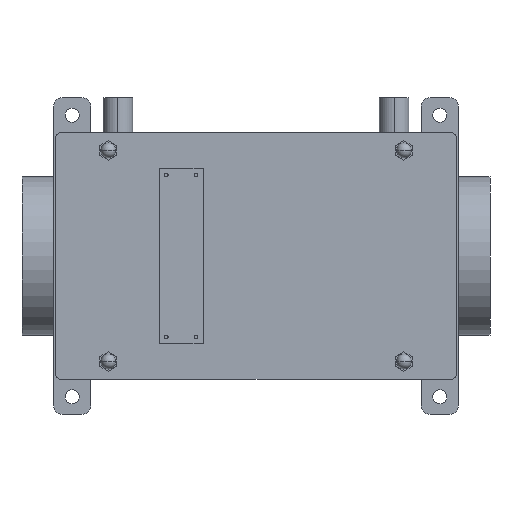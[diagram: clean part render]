
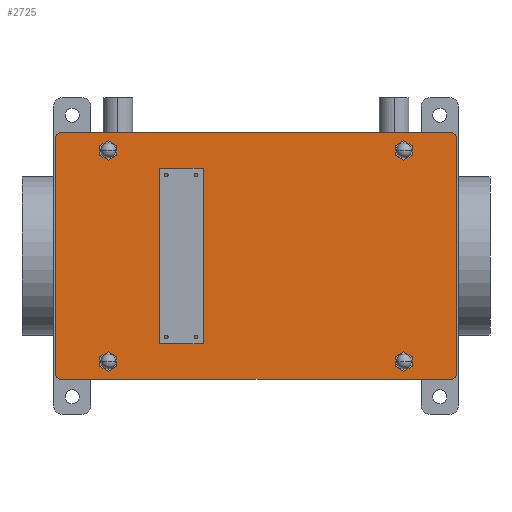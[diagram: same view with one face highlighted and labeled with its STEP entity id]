
A CAD part, left-side view. The second image highlights one B-rep face of the part: STEP entity #2725.
In plain terms, the highlighted planar face has unit normal (-1, 0, 0) as drawn and (0, -1, 0) by its records, which use the part's own axes.
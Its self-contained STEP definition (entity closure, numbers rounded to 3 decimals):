
#53 = CARTESIAN_POINT ( 'NONE',  ( 120., -3., 168. ) ) ;
#66 = CIRCLE ( 'NONE', #3059, 8. ) ;
#91 = VERTEX_POINT ( 'NONE', #5405 ) ;
#167 = AXIS2_PLACEMENT_3D ( 'NONE', #6049, #3472, #5362 ) ;
#198 = EDGE_LOOP ( 'NONE', ( #4922, #2471 ) ) ;
#282 = VERTEX_POINT ( 'NONE', #6151 ) ;
#332 = DIRECTION ( 'NONE',  ( 0., 0., 1. ) ) ;
#417 = AXIS2_PLACEMENT_3D ( 'NONE', #5882, #4494, #2011 ) ;
#546 = EDGE_CURVE ( 'NONE', #282, #91, #5200, .T. ) ;
#603 = EDGE_CURVE ( 'NONE', #282, #6971, #782, .T. ) ;
#649 = FACE_BOUND ( 'NONE', #198, .T. ) ;
#759 = AXIS2_PLACEMENT_3D ( 'NONE', #6581, #4764, #6611 ) ;
#779 = VERTEX_POINT ( 'NONE', #6519 ) ;
#782 = CIRCLE ( 'NONE', #167, 6. ) ;
#789 = VECTOR ( 'NONE', #3448, 1000. ) ;
#790 = AXIS2_PLACEMENT_3D ( 'NONE', #6330, #1992, #6386 ) ;
#814 = DIRECTION ( 'NONE',  ( 0., -1., 0. ) ) ;
#872 = CARTESIAN_POINT ( 'NONE',  ( 140., -3., 228. ) ) ;
#901 = ORIENTED_EDGE ( 'NONE', *, *, #546, .F. ) ;
#921 = DIRECTION ( 'NONE',  ( 0., 0., -1. ) ) ;
#1035 = CARTESIAN_POINT ( 'NONE',  ( 140., -3., 222. ) ) ;
#1052 = AXIS2_PLACEMENT_3D ( 'NONE', #7672, #3818, #4442 ) ;
#1103 = CARTESIAN_POINT ( 'NONE',  ( 120., -3., 176. ) ) ;
#1146 = FACE_BOUND ( 'NONE', #1563, .T. ) ;
#1246 = DIRECTION ( 'NONE',  ( 0., 0., 1. ) ) ;
#1268 = CARTESIAN_POINT ( 'NONE',  ( 120., -3., -176. ) ) ;
#1300 = CIRCLE ( 'NONE', #2087, 6. ) ;
#1390 = CARTESIAN_POINT ( 'NONE',  ( 134., -3., 228. ) ) ;
#1395 = ORIENTED_EDGE ( 'NONE', *, *, #603, .T. ) ;
#1399 = EDGE_CURVE ( 'NONE', #2378, #3362, #4899, .T. ) ;
#1446 = CIRCLE ( 'NONE', #7701, 8. ) ;
#1460 = PLANE ( 'NONE',  #1651 ) ;
#1544 = EDGE_CURVE ( 'NONE', #7169, #5431, #2232, .T. ) ;
#1563 = EDGE_LOOP ( 'NONE', ( #5016, #6210 ) ) ;
#1651 = AXIS2_PLACEMENT_3D ( 'NONE', #1969, #2552, #6257 ) ;
#1656 = CIRCLE ( 'NONE', #3218, 8. ) ;
#1736 = VERTEX_POINT ( 'NONE', #4715 ) ;
#1744 = VECTOR ( 'NONE', #2992, 1000. ) ;
#1969 = CARTESIAN_POINT ( 'NONE',  ( 0., -3., 0. ) ) ;
#1987 = EDGE_CURVE ( 'NONE', #3717, #779, #66, .T. ) ;
#1992 = DIRECTION ( 'NONE',  ( 0., 1., 0. ) ) ;
#1998 = VERTEX_POINT ( 'NONE', #1103 ) ;
#2003 = VERTEX_POINT ( 'NONE', #6142 ) ;
#2011 = DIRECTION ( 'NONE',  ( 0., 0., -1. ) ) ;
#2087 = AXIS2_PLACEMENT_3D ( 'NONE', #2099, #814, #921 ) ;
#2099 = CARTESIAN_POINT ( 'NONE',  ( -134., -3., 222. ) ) ;
#2112 = EDGE_CURVE ( 'NONE', #1998, #6609, #1656, .T. ) ;
#2232 = CIRCLE ( 'NONE', #417, 6. ) ;
#2378 = VERTEX_POINT ( 'NONE', #1268 ) ;
#2419 = CARTESIAN_POINT ( 'NONE',  ( 120., -3., 160. ) ) ;
#2436 = AXIS2_PLACEMENT_3D ( 'NONE', #5328, #4004, #7231 ) ;
#2471 = ORIENTED_EDGE ( 'NONE', *, *, #1399, .T. ) ;
#2552 = DIRECTION ( 'NONE',  ( 0., -1., 0. ) ) ;
#2611 = EDGE_CURVE ( 'NONE', #1736, #5431, #5026, .T. ) ;
#2660 = ORIENTED_EDGE ( 'NONE', *, *, #3215, .T. ) ;
#2695 = EDGE_CURVE ( 'NONE', #3362, #2378, #1446, .T. ) ;
#2725 = ADVANCED_FACE ( 'NONE', ( #649, #1146, #5983, #6252, #7439 ), #1460, .T. ) ;
#2774 = VECTOR ( 'NONE', #4139, 1000. ) ;
#2786 = ORIENTED_EDGE ( 'NONE', *, *, #3266, .F. ) ;
#2950 = EDGE_CURVE ( 'NONE', #7624, #2003, #5974, .T. ) ;
#2992 = DIRECTION ( 'NONE',  ( 0., 0., 1. ) ) ;
#3059 = AXIS2_PLACEMENT_3D ( 'NONE', #7872, #4732, #6033 ) ;
#3127 = CARTESIAN_POINT ( 'NONE',  ( 120., -3., -160. ) ) ;
#3215 = EDGE_CURVE ( 'NONE', #779, #3717, #5563, .T. ) ;
#3218 = AXIS2_PLACEMENT_3D ( 'NONE', #53, #7539, #1246 ) ;
#3266 = EDGE_CURVE ( 'NONE', #7987, #5724, #5067, .T. ) ;
#3289 = ORIENTED_EDGE ( 'NONE', *, *, #3856, .T. ) ;
#3362 = VERTEX_POINT ( 'NONE', #3127 ) ;
#3394 = CARTESIAN_POINT ( 'NONE',  ( -120., -3., 160. ) ) ;
#3406 = VECTOR ( 'NONE', #5268, 1000. ) ;
#3448 = DIRECTION ( 'NONE',  ( -1., 0., 0. ) ) ;
#3472 = DIRECTION ( 'NONE',  ( 0., -1., 0. ) ) ;
#3684 = EDGE_CURVE ( 'NONE', #7169, #6971, #7531, .T. ) ;
#3717 = VERTEX_POINT ( 'NONE', #3898 ) ;
#3818 = DIRECTION ( 'NONE',  ( 0., 1., 0. ) ) ;
#3856 = EDGE_CURVE ( 'NONE', #7987, #91, #7524, .T. ) ;
#3898 = CARTESIAN_POINT ( 'NONE',  ( -120., -3., -176. ) ) ;
#3923 = DIRECTION ( 'NONE',  ( 0., 0., 1. ) ) ;
#4004 = DIRECTION ( 'NONE',  ( 0., 1., 0. ) ) ;
#4102 = AXIS2_PLACEMENT_3D ( 'NONE', #5384, #4161, #5464 ) ;
#4139 = DIRECTION ( 'NONE',  ( 1., 0., 0. ) ) ;
#4141 = EDGE_LOOP ( 'NONE', ( #8061, #7778 ) ) ;
#4161 = DIRECTION ( 'NONE',  ( 0., 1., 0. ) ) ;
#4361 = EDGE_CURVE ( 'NONE', #6609, #1998, #6781, .T. ) ;
#4442 = DIRECTION ( 'NONE',  ( 0., 0., 1. ) ) ;
#4494 = DIRECTION ( 'NONE',  ( 0., -1., 0. ) ) ;
#4551 = CARTESIAN_POINT ( 'NONE',  ( 120., -3., -168. ) ) ;
#4595 = CARTESIAN_POINT ( 'NONE',  ( -140., -3., -222. ) ) ;
#4616 = ORIENTED_EDGE ( 'NONE', *, *, #1544, .T. ) ;
#4669 = EDGE_CURVE ( 'NONE', #2003, #7624, #7280, .T. ) ;
#4686 = AXIS2_PLACEMENT_3D ( 'NONE', #4551, #5124, #3923 ) ;
#4715 = CARTESIAN_POINT ( 'NONE',  ( -134., -3., 228. ) ) ;
#4732 = DIRECTION ( 'NONE',  ( 0., 1., 0. ) ) ;
#4737 = CARTESIAN_POINT ( 'NONE',  ( 140., -3., -222. ) ) ;
#4764 = DIRECTION ( 'NONE',  ( 0., -1., 0. ) ) ;
#4899 = CIRCLE ( 'NONE', #4686, 8. ) ;
#4922 = ORIENTED_EDGE ( 'NONE', *, *, #2695, .T. ) ;
#5016 = ORIENTED_EDGE ( 'NONE', *, *, #4669, .T. ) ;
#5026 = LINE ( 'NONE', #6055, #2774 ) ;
#5067 = LINE ( 'NONE', #7917, #1744 ) ;
#5124 = DIRECTION ( 'NONE',  ( 0., 1., 0. ) ) ;
#5200 = LINE ( 'NONE', #7945, #789 ) ;
#5268 = DIRECTION ( 'NONE',  ( 0., 0., -1. ) ) ;
#5328 = CARTESIAN_POINT ( 'NONE',  ( -120., -3., 168. ) ) ;
#5362 = DIRECTION ( 'NONE',  ( 0., 0., -1. ) ) ;
#5384 = CARTESIAN_POINT ( 'NONE',  ( -120., -3., -168. ) ) ;
#5405 = CARTESIAN_POINT ( 'NONE',  ( -134., -3., -228. ) ) ;
#5431 = VERTEX_POINT ( 'NONE', #1390 ) ;
#5464 = DIRECTION ( 'NONE',  ( 0., 0., 1. ) ) ;
#5508 = CARTESIAN_POINT ( 'NONE',  ( 120., -3., -168. ) ) ;
#5563 = CIRCLE ( 'NONE', #4102, 8. ) ;
#5711 = ORIENTED_EDGE ( 'NONE', *, *, #7947, .T. ) ;
#5724 = VERTEX_POINT ( 'NONE', #6779 ) ;
#5790 = DIRECTION ( 'NONE',  ( 0., 1., 0. ) ) ;
#5817 = ORIENTED_EDGE ( 'NONE', *, *, #3684, .F. ) ;
#5882 = CARTESIAN_POINT ( 'NONE',  ( 134., -3., 222. ) ) ;
#5974 = CIRCLE ( 'NONE', #2436, 8. ) ;
#5983 = FACE_BOUND ( 'NONE', #4141, .T. ) ;
#6025 = EDGE_LOOP ( 'NONE', ( #2786, #3289, #901, #1395, #5817, #4616, #7573, #5711 ) ) ;
#6033 = DIRECTION ( 'NONE',  ( 0., 0., 1. ) ) ;
#6049 = CARTESIAN_POINT ( 'NONE',  ( 134., -3., -222. ) ) ;
#6055 = CARTESIAN_POINT ( 'NONE',  ( -140., -3., 228. ) ) ;
#6142 = CARTESIAN_POINT ( 'NONE',  ( -120., -3., 176. ) ) ;
#6151 = CARTESIAN_POINT ( 'NONE',  ( 134., -3., -228. ) ) ;
#6210 = ORIENTED_EDGE ( 'NONE', *, *, #2950, .T. ) ;
#6252 = FACE_BOUND ( 'NONE', #8026, .T. ) ;
#6257 = DIRECTION ( 'NONE',  ( 0., 0., -1. ) ) ;
#6330 = CARTESIAN_POINT ( 'NONE',  ( 120., -3., 168. ) ) ;
#6386 = DIRECTION ( 'NONE',  ( 0., 0., 1. ) ) ;
#6519 = CARTESIAN_POINT ( 'NONE',  ( -120., -3., -160. ) ) ;
#6581 = CARTESIAN_POINT ( 'NONE',  ( -134., -3., -222. ) ) ;
#6609 = VERTEX_POINT ( 'NONE', #2419 ) ;
#6611 = DIRECTION ( 'NONE',  ( 0., 0., -1. ) ) ;
#6779 = CARTESIAN_POINT ( 'NONE',  ( -140., -3., 222. ) ) ;
#6781 = CIRCLE ( 'NONE', #790, 8. ) ;
#6971 = VERTEX_POINT ( 'NONE', #4737 ) ;
#7169 = VERTEX_POINT ( 'NONE', #1035 ) ;
#7231 = DIRECTION ( 'NONE',  ( 0., 0., 1. ) ) ;
#7280 = CIRCLE ( 'NONE', #1052, 8. ) ;
#7439 = FACE_OUTER_BOUND ( 'NONE', #6025, .T. ) ;
#7524 = CIRCLE ( 'NONE', #759, 6. ) ;
#7531 = LINE ( 'NONE', #872, #3406 ) ;
#7539 = DIRECTION ( 'NONE',  ( 0., 1., 0. ) ) ;
#7573 = ORIENTED_EDGE ( 'NONE', *, *, #2611, .F. ) ;
#7590 = ORIENTED_EDGE ( 'NONE', *, *, #1987, .T. ) ;
#7624 = VERTEX_POINT ( 'NONE', #3394 ) ;
#7672 = CARTESIAN_POINT ( 'NONE',  ( -120., -3., 168. ) ) ;
#7701 = AXIS2_PLACEMENT_3D ( 'NONE', #5508, #5790, #332 ) ;
#7778 = ORIENTED_EDGE ( 'NONE', *, *, #4361, .T. ) ;
#7872 = CARTESIAN_POINT ( 'NONE',  ( -120., -3., -168. ) ) ;
#7917 = CARTESIAN_POINT ( 'NONE',  ( -140., -3., 228. ) ) ;
#7945 = CARTESIAN_POINT ( 'NONE',  ( -140., -3., -228. ) ) ;
#7947 = EDGE_CURVE ( 'NONE', #1736, #5724, #1300, .T. ) ;
#7987 = VERTEX_POINT ( 'NONE', #4595 ) ;
#8026 = EDGE_LOOP ( 'NONE', ( #2660, #7590 ) ) ;
#8061 = ORIENTED_EDGE ( 'NONE', *, *, #2112, .T. ) ;
